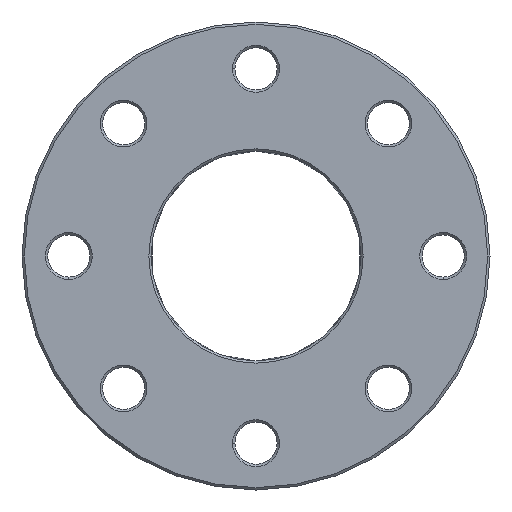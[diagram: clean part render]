
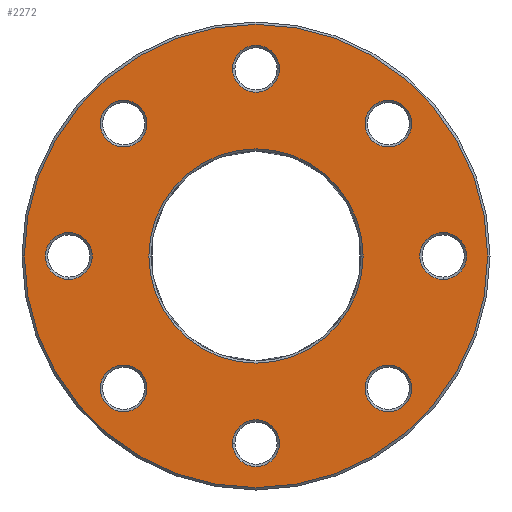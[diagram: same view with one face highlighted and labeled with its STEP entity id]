
A CAD part, front view. The second image highlights one B-rep face of the part: STEP entity #2272.
In plain terms, the highlighted planar face has unit normal (0, -1, 0).
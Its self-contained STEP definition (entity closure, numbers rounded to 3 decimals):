
#646=CARTESIAN_POINT('',(0.,-4.956,80.));
#647=DIRECTION('',(0.,1.,0.));
#648=DIRECTION('',(1.,0.,0.));
#649=AXIS2_PLACEMENT_3D('',#646,#647,#648);
#654=CARTESIAN_POINT('',(0.,-4.956,80.));
#655=DIRECTION('',(0.,1.,0.));
#656=DIRECTION('',(-1.,0.,0.));
#657=AXIS2_PLACEMENT_3D('',#654,#655,#656);
#662=CARTESIAN_POINT('',(56.569,-4.956,56.569));
#663=DIRECTION('',(0.,1.,0.));
#664=DIRECTION('',(-0.707,0.,0.707));
#665=AXIS2_PLACEMENT_3D('',#662,#663,#664);
#670=CARTESIAN_POINT('',(56.569,-4.956,56.569));
#671=DIRECTION('',(0.,1.,0.));
#672=DIRECTION('',(0.707,0.,-0.707));
#673=AXIS2_PLACEMENT_3D('',#670,#671,#672);
#678=CARTESIAN_POINT('',(80.,-4.956,0.));
#679=DIRECTION('',(0.,1.,0.));
#680=DIRECTION('',(0.,0.,1.));
#681=AXIS2_PLACEMENT_3D('',#678,#679,#680);
#686=CARTESIAN_POINT('',(80.,-4.956,0.));
#687=DIRECTION('',(0.,1.,0.));
#688=DIRECTION('',(0.,0.,-1.));
#689=AXIS2_PLACEMENT_3D('',#686,#687,#688);
#694=CARTESIAN_POINT('',(56.569,-4.956,-56.569));
#695=DIRECTION('',(0.,1.,0.));
#696=DIRECTION('',(0.707,0.,0.707));
#697=AXIS2_PLACEMENT_3D('',#694,#695,#696);
#702=CARTESIAN_POINT('',(56.569,-4.956,-56.569));
#703=DIRECTION('',(0.,1.,0.));
#704=DIRECTION('',(-0.707,0.,-0.707));
#705=AXIS2_PLACEMENT_3D('',#702,#703,#704);
#710=CARTESIAN_POINT('',(0.,-4.956,-80.));
#711=DIRECTION('',(0.,1.,0.));
#712=DIRECTION('',(1.,0.,0.));
#713=AXIS2_PLACEMENT_3D('',#710,#711,#712);
#718=CARTESIAN_POINT('',(0.,-4.956,-80.));
#719=DIRECTION('',(0.,1.,0.));
#720=DIRECTION('',(-1.,0.,0.));
#721=AXIS2_PLACEMENT_3D('',#718,#719,#720);
#726=CARTESIAN_POINT('',(-56.569,-4.956,
-56.569));
#727=DIRECTION('',(0.,1.,0.));
#728=DIRECTION('',(0.707,0.,-0.707));
#729=AXIS2_PLACEMENT_3D('',#726,#727,#728);
#734=CARTESIAN_POINT('',(-56.569,-4.956,
-56.569));
#735=DIRECTION('',(0.,1.,0.));
#736=DIRECTION('',(-0.707,0.,0.707));
#737=AXIS2_PLACEMENT_3D('',#734,#735,#736);
#742=CARTESIAN_POINT('',(-80.,-4.956,0.));
#743=DIRECTION('',(0.,1.,0.));
#744=DIRECTION('',(0.,0.,-1.));
#745=AXIS2_PLACEMENT_3D('',#742,#743,#744);
#750=CARTESIAN_POINT('',(-80.,-4.956,0.));
#751=DIRECTION('',(0.,1.,0.));
#752=DIRECTION('',(0.,0.,1.));
#753=AXIS2_PLACEMENT_3D('',#750,#751,#752);
#758=CARTESIAN_POINT('',(-56.569,-4.956,56.569));
#759=DIRECTION('',(0.,1.,0.));
#760=DIRECTION('',(0.707,0.,0.707));
#761=AXIS2_PLACEMENT_3D('',#758,#759,#760);
#766=CARTESIAN_POINT('',(-56.569,-4.956,56.569));
#767=DIRECTION('',(0.,1.,0.));
#768=DIRECTION('',(-0.707,0.,-0.707));
#769=AXIS2_PLACEMENT_3D('',#766,#767,#768);
#774=CARTESIAN_POINT('',(0.,-4.956,0.));
#775=DIRECTION('',(0.,-1.,0.));
#776=DIRECTION('',(-1.,0.,0.));
#777=AXIS2_PLACEMENT_3D('',#774,#775,#776);
#782=CARTESIAN_POINT('',(0.,-4.956,0.));
#783=DIRECTION('',(0.,-1.,0.));
#784=DIRECTION('',(1.,0.,0.));
#785=AXIS2_PLACEMENT_3D('',#782,#783,#784);
#790=CARTESIAN_POINT('',(0.,-4.956,0.));
#791=DIRECTION('',(0.,1.,0.));
#792=DIRECTION('',(-1.,0.,0.));
#793=AXIS2_PLACEMENT_3D('',#790,#791,#792);
#798=CARTESIAN_POINT('',(0.,-4.956,0.));
#799=DIRECTION('',(0.,1.,0.));
#800=DIRECTION('',(1.,0.,0.));
#801=AXIS2_PLACEMENT_3D('',#798,#799,#800);
#1593=CARTESIAN_POINT('',(10.,-4.956,80.));
#1594=CARTESIAN_POINT('',(-10.,-4.956,80.));
#1595=VERTEX_POINT('',#1593);
#1596=VERTEX_POINT('',#1594);
#1601=CARTESIAN_POINT('',(49.497,-4.956,63.64));
#1602=CARTESIAN_POINT('',(63.64,-4.956,49.497));
#1603=VERTEX_POINT('',#1601);
#1604=VERTEX_POINT('',#1602);
#1609=CARTESIAN_POINT('',(80.,-4.956,10.));
#1610=CARTESIAN_POINT('',(80.,-4.956,-10.));
#1611=VERTEX_POINT('',#1609);
#1612=VERTEX_POINT('',#1610);
#1617=CARTESIAN_POINT('',(63.64,-4.956,
-49.497));
#1618=CARTESIAN_POINT('',(49.497,-4.956,
-63.64));
#1619=VERTEX_POINT('',#1617);
#1620=VERTEX_POINT('',#1618);
#1625=CARTESIAN_POINT('',(10.,-4.956,-80.));
#1626=CARTESIAN_POINT('',(-10.,-4.956,-80.));
#1627=VERTEX_POINT('',#1625);
#1628=VERTEX_POINT('',#1626);
#1633=CARTESIAN_POINT('',(-49.497,-4.956,
-63.64));
#1634=CARTESIAN_POINT('',(-63.64,-4.956,
-49.497));
#1635=VERTEX_POINT('',#1633);
#1636=VERTEX_POINT('',#1634);
#1641=CARTESIAN_POINT('',(-80.,-4.956,-10.));
#1642=CARTESIAN_POINT('',(-80.,-4.956,10.));
#1643=VERTEX_POINT('',#1641);
#1644=VERTEX_POINT('',#1642);
#1649=CARTESIAN_POINT('',(-49.497,-4.956,
63.64));
#1650=CARTESIAN_POINT('',(-63.64,-4.956,
49.497));
#1651=VERTEX_POINT('',#1649);
#1652=VERTEX_POINT('',#1650);
#1721=CARTESIAN_POINT('',(-99.,-4.956,0.));
#1722=CARTESIAN_POINT('',(99.,-4.956,0.));
#1723=VERTEX_POINT('',#1721);
#1724=VERTEX_POINT('',#1722);
#1737=CARTESIAN_POINT('',(-45.793,-4.956,0.));
#1738=CARTESIAN_POINT('',(45.793,-4.956,0.));
#1739=VERTEX_POINT('',#1737);
#1740=VERTEX_POINT('',#1738);
#2208=CARTESIAN_POINT('',(0.,-4.956,0.));
#2209=DIRECTION('',(0.,-1.,0.));
#2210=DIRECTION('',(1.,0.,0.));
#2211=AXIS2_PLACEMENT_3D('',#2208,#2209,#2210);
#2212=PLANE('',#2211);
#2214=ORIENTED_EDGE('',*,*,#2213,.F.);
#2216=ORIENTED_EDGE('',*,*,#2215,.F.);
#2217=EDGE_LOOP('',(#2214,#2216));
#2218=FACE_OUTER_BOUND('',#2217,.F.);
#2220=ORIENTED_EDGE('',*,*,#2219,.F.);
#2222=ORIENTED_EDGE('',*,*,#2221,.F.);
#2223=EDGE_LOOP('',(#2220,#2222));
#2224=FACE_BOUND('',#2223,.F.);
#2226=ORIENTED_EDGE('',*,*,#2225,.F.);
#2228=ORIENTED_EDGE('',*,*,#2227,.F.);
#2229=EDGE_LOOP('',(#2226,#2228));
#2230=FACE_BOUND('',#2229,.F.);
#2232=ORIENTED_EDGE('',*,*,#2231,.F.);
#2234=ORIENTED_EDGE('',*,*,#2233,.F.);
#2235=EDGE_LOOP('',(#2232,#2234));
#2236=FACE_BOUND('',#2235,.F.);
#2238=ORIENTED_EDGE('',*,*,#2237,.F.);
#2240=ORIENTED_EDGE('',*,*,#2239,.F.);
#2241=EDGE_LOOP('',(#2238,#2240));
#2242=FACE_BOUND('',#2241,.F.);
#2244=ORIENTED_EDGE('',*,*,#2243,.F.);
#2246=ORIENTED_EDGE('',*,*,#2245,.F.);
#2247=EDGE_LOOP('',(#2244,#2246));
#2248=FACE_BOUND('',#2247,.F.);
#2250=ORIENTED_EDGE('',*,*,#2249,.F.);
#2252=ORIENTED_EDGE('',*,*,#2251,.F.);
#2253=EDGE_LOOP('',(#2250,#2252));
#2254=FACE_BOUND('',#2253,.F.);
#2256=ORIENTED_EDGE('',*,*,#2255,.F.);
#2258=ORIENTED_EDGE('',*,*,#2257,.F.);
#2259=EDGE_LOOP('',(#2256,#2258));
#2260=FACE_BOUND('',#2259,.F.);
#2262=ORIENTED_EDGE('',*,*,#2261,.F.);
#2264=ORIENTED_EDGE('',*,*,#2263,.F.);
#2265=EDGE_LOOP('',(#2262,#2264));
#2266=FACE_BOUND('',#2265,.F.);
#2267=ORIENTED_EDGE('',*,*,#2198,.F.);
#2269=ORIENTED_EDGE('',*,*,#2268,.F.);
#2270=EDGE_LOOP('',(#2267,#2269));
#2271=FACE_BOUND('',#2270,.F.);
#650=CIRCLE('',#649,10.);
#658=CIRCLE('',#657,10.);
#666=CIRCLE('',#665,10.);
#674=CIRCLE('',#673,10.);
#682=CIRCLE('',#681,10.);
#690=CIRCLE('',#689,10.);
#698=CIRCLE('',#697,10.);
#706=CIRCLE('',#705,10.);
#714=CIRCLE('',#713,10.);
#722=CIRCLE('',#721,10.);
#730=CIRCLE('',#729,10.);
#738=CIRCLE('',#737,10.);
#746=CIRCLE('',#745,10.);
#754=CIRCLE('',#753,10.);
#762=CIRCLE('',#761,10.);
#770=CIRCLE('',#769,10.);
#778=CIRCLE('',#777,99.);
#786=CIRCLE('',#785,99.);
#794=CIRCLE('',#793,45.793);
#802=CIRCLE('',#801,45.793);
#2198=EDGE_CURVE('',#1739,#1740,#794,.T.);
#2213=EDGE_CURVE('',#1723,#1724,#778,.T.);
#2215=EDGE_CURVE('',#1724,#1723,#786,.T.);
#2219=EDGE_CURVE('',#1603,#1604,#666,.T.);
#2221=EDGE_CURVE('',#1604,#1603,#674,.T.);
#2225=EDGE_CURVE('',#1611,#1612,#682,.T.);
#2227=EDGE_CURVE('',#1612,#1611,#690,.T.);
#2231=EDGE_CURVE('',#1619,#1620,#698,.T.);
#2233=EDGE_CURVE('',#1620,#1619,#706,.T.);
#2237=EDGE_CURVE('',#1627,#1628,#714,.T.);
#2239=EDGE_CURVE('',#1628,#1627,#722,.T.);
#2243=EDGE_CURVE('',#1635,#1636,#730,.T.);
#2245=EDGE_CURVE('',#1636,#1635,#738,.T.);
#2249=EDGE_CURVE('',#1643,#1644,#746,.T.);
#2251=EDGE_CURVE('',#1644,#1643,#754,.T.);
#2255=EDGE_CURVE('',#1651,#1652,#762,.T.);
#2257=EDGE_CURVE('',#1652,#1651,#770,.T.);
#2261=EDGE_CURVE('',#1595,#1596,#650,.T.);
#2263=EDGE_CURVE('',#1596,#1595,#658,.T.);
#2268=EDGE_CURVE('',#1740,#1739,#802,.T.);
#2272=ADVANCED_FACE('',(#2218,#2224,#2230,#2236,#2242,#2248,#2254,#2260,#2266,
#2271),#2212,.T.);
